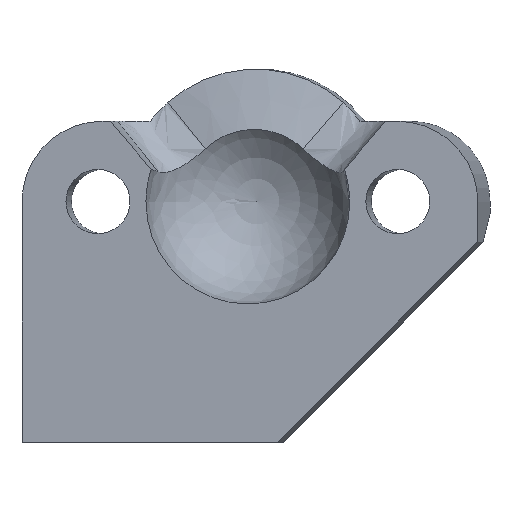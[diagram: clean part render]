
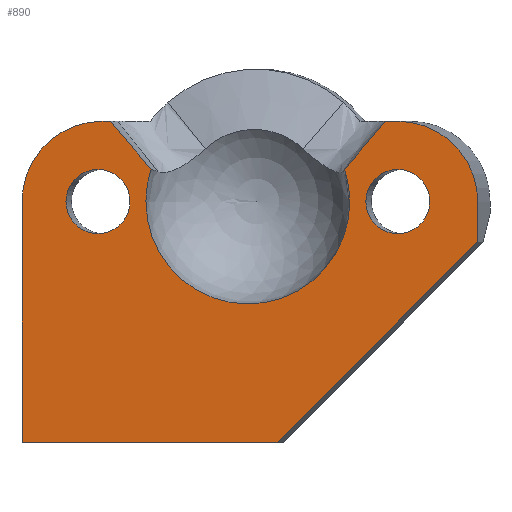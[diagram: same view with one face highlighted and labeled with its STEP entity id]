
A CAD part, left-side view. The second image highlights one B-rep face of the part: STEP entity #890.
In plain terms, the highlighted planar face has unit normal (-0.996, 0.087, 0).
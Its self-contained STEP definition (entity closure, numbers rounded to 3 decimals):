
#49=FACE_BOUND('',#139,.T.);
#50=FACE_BOUND('',#140,.T.);
#55=PLANE('',#954);
#90=FACE_OUTER_BOUND('',#138,.T.);
#138=EDGE_LOOP('',(#616,#617,#618,#619,#620,#621,#622,#623,#624,#625,#626,
#627));
#139=EDGE_LOOP('',(#628));
#140=EDGE_LOOP('',(#629));
#193=LINE('',#1280,#272);
#194=LINE('',#1283,#273);
#195=LINE('',#1285,#274);
#196=LINE('',#1287,#275);
#197=LINE('',#1291,#276);
#198=LINE('',#1293,#277);
#199=LINE('',#1299,#278);
#200=LINE('',#1300,#279);
#272=VECTOR('',#1042,10.);
#273=VECTOR('',#1045,10.);
#274=VECTOR('',#1046,10.);
#275=VECTOR('',#1047,10.);
#276=VECTOR('',#1050,10.);
#277=VECTOR('',#1051,10.);
#278=VECTOR('',#1056,10.);
#279=VECTOR('',#1057,10.);
#347=CIRCLE('',#951,4.);
#349=CIRCLE('',#955,4.);
#350=CIRCLE('',#956,5.1);
#351=CIRCLE('',#957,5.1);
#352=CIRCLE('',#958,1.6);
#353=CIRCLE('',#959,1.6);
#379=VERTEX_POINT('',#1267);
#380=VERTEX_POINT('',#1268);
#384=VERTEX_POINT('',#1278);
#385=VERTEX_POINT('',#1282);
#386=VERTEX_POINT('',#1284);
#387=VERTEX_POINT('',#1286);
#388=VERTEX_POINT('',#1288);
#389=VERTEX_POINT('',#1290);
#390=VERTEX_POINT('',#1292);
#391=VERTEX_POINT('',#1294);
#392=VERTEX_POINT('',#1296);
#393=VERTEX_POINT('',#1298);
#394=VERTEX_POINT('',#1301);
#395=VERTEX_POINT('',#1303);
#471=EDGE_CURVE('',#379,#380,#347,.T.);
#477=EDGE_CURVE('',#384,#380,#193,.F.);
#478=EDGE_CURVE('',#385,#384,#194,.F.);
#479=EDGE_CURVE('',#385,#386,#195,.T.);
#480=EDGE_CURVE('',#387,#386,#196,.T.);
#481=EDGE_CURVE('',#387,#388,#349,.T.);
#482=EDGE_CURVE('',#388,#389,#197,.T.);
#483=EDGE_CURVE('',#389,#390,#198,.T.);
#484=EDGE_CURVE('',#390,#391,#350,.F.);
#485=EDGE_CURVE('',#391,#392,#351,.F.);
#486=EDGE_CURVE('',#392,#393,#199,.T.);
#487=EDGE_CURVE('',#393,#379,#200,.T.);
#488=EDGE_CURVE('',#394,#394,#352,.T.);
#489=EDGE_CURVE('',#395,#395,#353,.T.);
#616=ORIENTED_EDGE('',*,*,#471,.T.);
#617=ORIENTED_EDGE('',*,*,#477,.F.);
#618=ORIENTED_EDGE('',*,*,#478,.F.);
#619=ORIENTED_EDGE('',*,*,#479,.T.);
#620=ORIENTED_EDGE('',*,*,#480,.F.);
#621=ORIENTED_EDGE('',*,*,#481,.T.);
#622=ORIENTED_EDGE('',*,*,#482,.T.);
#623=ORIENTED_EDGE('',*,*,#483,.T.);
#624=ORIENTED_EDGE('',*,*,#484,.T.);
#625=ORIENTED_EDGE('',*,*,#485,.T.);
#626=ORIENTED_EDGE('',*,*,#486,.T.);
#627=ORIENTED_EDGE('',*,*,#487,.T.);
#628=ORIENTED_EDGE('',*,*,#488,.T.);
#629=ORIENTED_EDGE('',*,*,#489,.T.);
#890=ADVANCED_FACE('',(#90,#49,#50),#55,.T.);
#951=AXIS2_PLACEMENT_3D('',#1269,#1032,#1033);
#954=AXIS2_PLACEMENT_3D('',#1281,#1043,#1044);
#955=AXIS2_PLACEMENT_3D('',#1289,#1048,#1049);
#956=AXIS2_PLACEMENT_3D('',#1295,#1052,#1053);
#957=AXIS2_PLACEMENT_3D('',#1297,#1054,#1055);
#958=AXIS2_PLACEMENT_3D('',#1302,#1058,#1059);
#959=AXIS2_PLACEMENT_3D('',#1304,#1060,#1061);
#1032=DIRECTION('center_axis',(-0.996,0.087,0.));
#1033=DIRECTION('ref_axis',(0.062,0.704,0.707));
#1042=DIRECTION('',(0.,0.,-1.));
#1043=DIRECTION('center_axis',(-0.996,0.087,0.));
#1044=DIRECTION('ref_axis',(0.,0.,
1.));
#1045=DIRECTION('',(-0.087,-0.996,0.));
#1046=DIRECTION('',(-0.062,-0.704,0.707));
#1047=DIRECTION('',(0.,0.,-1.));
#1048=DIRECTION('center_axis',(-0.996,0.087,0.));
#1049=DIRECTION('ref_axis',(0.,0.,
-1.));
#1050=DIRECTION('',(0.087,0.996,0.));
#1051=DIRECTION('',(0.056,0.646,-0.762));
#1052=DIRECTION('center_axis',(-0.996,0.087,0.));
#1053=DIRECTION('ref_axis',(0.,0.,-1.));
#1054=DIRECTION('center_axis',(-0.996,0.087,0.));
#1055=DIRECTION('ref_axis',(0.,0.,-1.));
#1056=DIRECTION('',(0.056,0.646,0.762));
#1057=DIRECTION('',(0.087,0.996,0.));
#1058=DIRECTION('center_axis',(0.996,-0.087,0.));
#1059=DIRECTION('ref_axis',(-0.087,-0.996,0.));
#1060=DIRECTION('center_axis',(0.996,-0.087,0.));
#1061=DIRECTION('ref_axis',(-0.087,-0.996,0.));
#1267=CARTESIAN_POINT('',(-1.171,6.871,4.));
#1268=CARTESIAN_POINT('',(-0.823,10.856,0.));
#1269=CARTESIAN_POINT('Origin',(-1.171,6.871,0.));
#1278=CARTESIAN_POINT('',(-0.823,10.856,-12.));
#1280=CARTESIAN_POINT('',(-0.823,10.856,-4.343));
#1281=CARTESIAN_POINT('Origin',(-1.808,-0.401,-0.686));
#1282=CARTESIAN_POINT('',(-1.938,-1.896,-12.));
#1283=CARTESIAN_POINT('',(-1.808,-0.401,-12.));
#1284=CARTESIAN_POINT('',(-2.81,-11.858,-2.));
#1285=CARTESIAN_POINT('',(-2.37,-6.83,-7.046));
#1286=CARTESIAN_POINT('',(-2.81,-11.858,0.));
#1287=CARTESIAN_POINT('',(-2.81,-11.858,-8.));
#1288=CARTESIAN_POINT('',(-2.461,-7.873,4.));
#1289=CARTESIAN_POINT('Origin',(-2.461,-7.873,0.));
#1290=CARTESIAN_POINT('',(-2.407,-7.251,4.));
#1291=CARTESIAN_POINT('',(-2.461,-7.873,4.));
#1292=CARTESIAN_POINT('',(-2.229,-5.223,1.608));
#1293=CARTESIAN_POINT('',(-2.292,-5.936,2.449));
#1294=CARTESIAN_POINT('',(-1.363,4.679,0.));
#1295=CARTESIAN_POINT('Origin',(-1.808,-0.401,0.));
#1296=CARTESIAN_POINT('',(-1.386,4.42,1.608));
#1297=CARTESIAN_POINT('Origin',(-1.808,-0.401,0.));
#1298=CARTESIAN_POINT('',(-1.208,6.448,4.));
#1299=CARTESIAN_POINT('',(-1.323,5.134,2.449));
#1300=CARTESIAN_POINT('',(-2.197,-4.848,4.));
#1301=CARTESIAN_POINT('',(-1.015,8.664,0.));
#1302=CARTESIAN_POINT('Origin',(-1.154,7.07,0.));
#1303=CARTESIAN_POINT('',(-2.322,-6.279,0.));
#1304=CARTESIAN_POINT('Origin',(-2.461,-7.873,0.));
